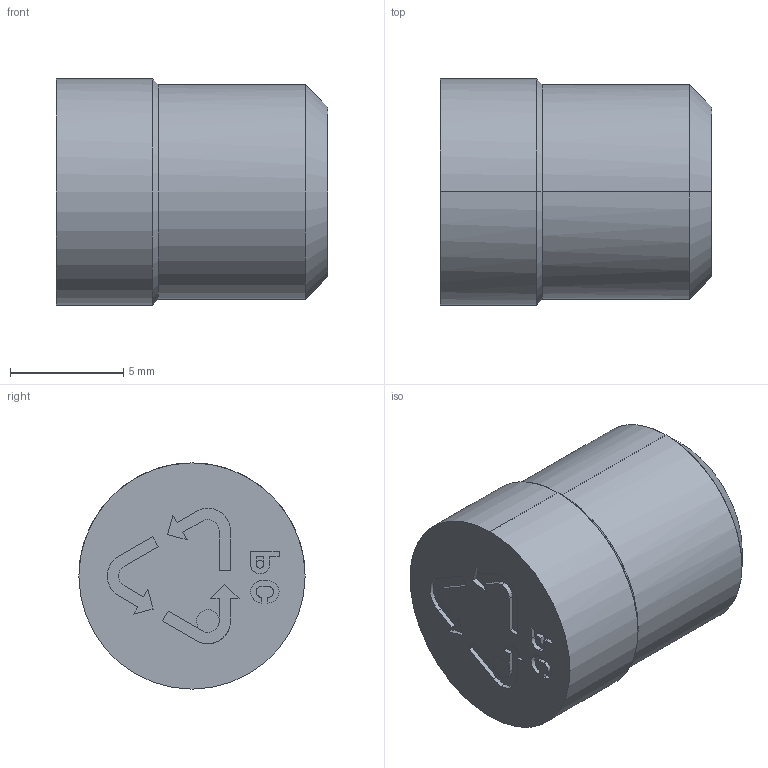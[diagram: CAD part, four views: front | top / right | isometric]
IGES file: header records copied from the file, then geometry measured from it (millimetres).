
Start section: START RECORD GO HERE.
Global section: file name: MPC10.igs; native system: DASSAULT SYSTEMES CATIA V5 R20 - www.3ds.com; preprocessor: CATIA Version 5 Release 20 ; author: Utente; organization: NB04-ASUS; date: 20210326.144617; units: millimetre
Bounding box: 12 x 10 x 10 mm (x, y, z)
Surface area: 574.3 mm2 (no closed solid volume)
Topology: 0 solids, 0 shells, 79 faces, 442 edges, 434 vertices
Faces by surface type: plane 47, revolution 32
